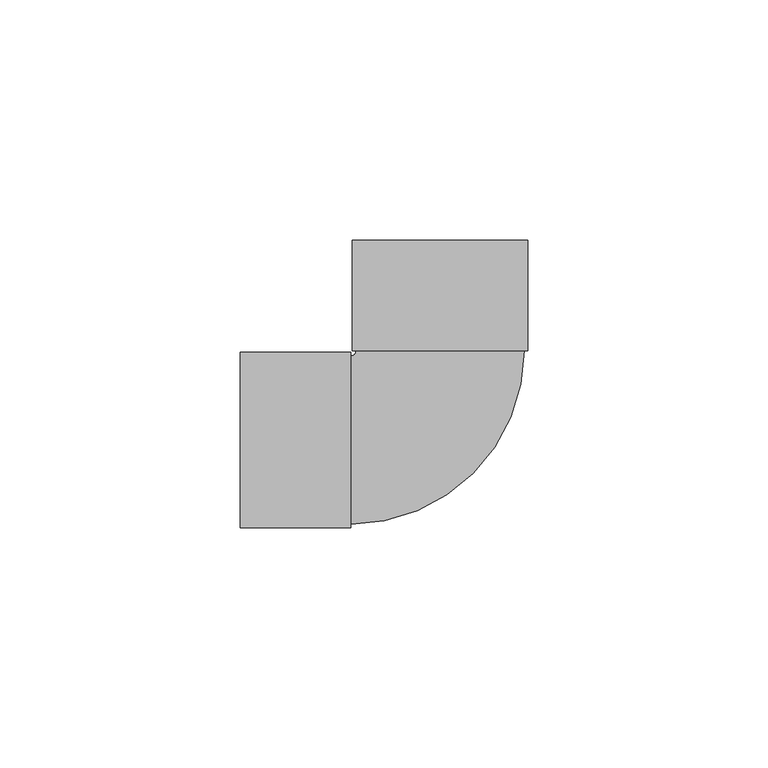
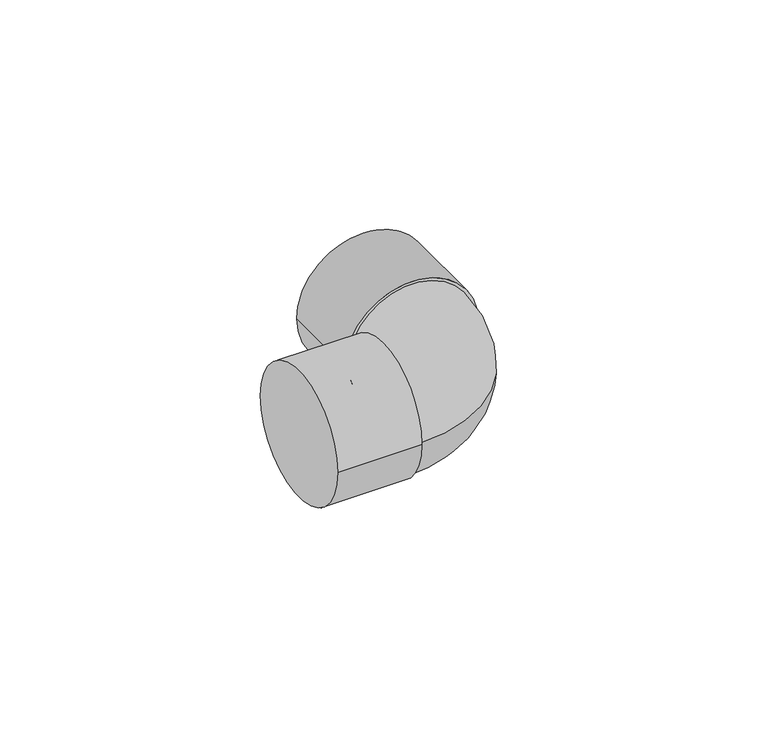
"""IFC4 building model written with IfcOpenShell, lengths in millimetres: pipe fitting geometry, Cotovelo - Soldado - CU : Padrão."""

from ifc_helpers import new_model, si_unit, point, frame, origin, place, context, project, spatial, circle_curve, ellipse_curve, trimmed, source, transform, mapped, element, save
from ifc_brep_helpers import plane_surface, cylinder_surface, revolved_surface, advanced_brep


def pipe_fitting_1c810b01(model_context):
    return source(origin(), model_context, "Body", "AdvancedBrep", [
        advanced_brep(
        [(-17.5003299, 18.5996896, 0.0), (-18.6, 17.5, 0.0), (-18.6, -17.5, 0.0), (17.4996701, 18.6003104, 0.0), (-41.6, -18.28, 0.0), (-41.6, 18.28, 0.0), (-18.6, -18.28, 0.0), (-18.6, 18.28, 0.0), (-18.2807379, 41.5996757, 0.0), (18.2792621, 41.6003242, 0.0), (-18.2803299, 18.5996757, 0.0), (18.2796701, 18.6003243, 0.0)],
        [
            (0, 1, circle_curve(frame((-18.6, 18.5996701, 0.0), z_axis=(0.0, 0.0, -1.0), x_axis=(0.0, -1.0, 0.0)), 1.0996701)),
            (1, 2, circle_curve(frame((-18.6, 0.0, 0.0), z_axis=(1.0, 0.0, 0.0), x_axis=(0.0, 1.0, 0.0)), 17.5)),
            (2, 3, circle_curve(frame((-18.6, 18.5996701, 0.0), z_axis=(0.0, 0.0, 1.0), x_axis=(0.0, -1.0, 0.0)), 36.0996701)),
            (3, 0, circle_curve(frame((-0.0003299, 18.6, 0.0), z_axis=(1.7738146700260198e-05, -0.9999999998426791, 0.0), x_axis=(-0.9999999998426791, -1.7738146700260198e-05, 0.0)), 17.5)),
            (0, 3, circle_curve(frame((-0.0003299, 18.6, 0.0), z_axis=(1.7738146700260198e-05, -0.9999999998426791, 0.0), x_axis=(-0.9999999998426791, -1.7738146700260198e-05, 0.0)), 17.5)),
            (2, 1, circle_curve(frame((-18.6, 0.0, 0.0), z_axis=(1.0, 0.0, 0.0), x_axis=(0.0, 1.0, 0.0)), 17.5)),
            (4, 5, circle_curve(frame((-41.6, 0.0, 0.0), z_axis=(-1.0, 0.0, 0.0), x_axis=(0.0, 1.0, 0.0)), 18.28)),
            (5, 4, circle_curve(frame((-41.6, 0.0, 0.0), z_axis=(-1.0, 0.0, 0.0), x_axis=(0.0, 1.0, 0.0)), 18.28)),
            (6, 7, circle_curve(frame((-18.6, 0.0, 0.0), z_axis=(1.0, 0.0, 0.0), x_axis=(0.0, 1.0, 0.0)), 18.28)),
            (7, 6, circle_curve(frame((-18.6, 0.0, 0.0), z_axis=(1.0, 0.0, 0.0), x_axis=(0.0, 1.0, 0.0)), 18.28)),
            (4, 6),
            (7, 5),
            (8, 9, circle_curve(frame((-0.0007379, 41.6, 0.0), z_axis=(-1.773814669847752e-05, 0.9999999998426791, 0.0), x_axis=(0.9999999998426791, 1.773814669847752e-05, 0.0)), 18.28)),
            (9, 8, circle_curve(frame((-0.0007379, 41.6, 0.0), z_axis=(-1.773814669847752e-05, 0.9999999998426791, 0.0), x_axis=(0.9999999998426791, 1.773814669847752e-05, 0.0)), 18.28)),
            (10, 11, circle_curve(frame((-0.0003299, 18.6, 0.0), z_axis=(1.773814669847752e-05, -0.9999999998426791, 0.0), x_axis=(0.9999999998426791, 1.773814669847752e-05, 0.0)), 18.28)),
            (11, 10, circle_curve(frame((-0.0003299, 18.6, 0.0), z_axis=(1.773814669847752e-05, -0.9999999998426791, 0.0), x_axis=(0.9999999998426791, 1.773814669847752e-05, 0.0)), 18.28)),
            (8, 10),
            (11, 9),
        ],
        [
            revolved_surface(trimmed(ellipse_curve(frame((-18.6, 0.0, 0.0), z_axis=(-1.0, 0.0, 0.0), x_axis=(0.0, 1.0, 0.0)), 17.5, 17.5), [point((-18.6, -17.5, 0.0))], [point((-18.6, 17.5, 0.0))], True, "CARTESIAN"), (-18.6, 18.5996701, 0.0), (0.0, 0.0, 1.0)),
            revolved_surface(trimmed(ellipse_curve(frame((-18.6, 0.0, 0.0), z_axis=(-1.0, 0.0, 0.0), x_axis=(0.0, 1.0, 0.0)), 17.5, 17.5), [point((-18.6, 17.5, 0.0))], [point((-18.6, -17.5, 0.0))], True, "CARTESIAN"), (-18.6, 18.5996701, 0.0), (0.0, 0.0, 1.0)),
            plane_surface(frame((-41.6, 0.0, 0.0), z_axis=(-1.0, 0.0, 0.0), x_axis=(0.0, 0.0, 1.0))),
            plane_surface(frame((-18.6, 0.0, 0.0), z_axis=(1.0, 0.0, 0.0), x_axis=(0.0, 0.0, 1.0))),
            cylinder_surface(frame((-41.6, 0.0, 0.0), z_axis=(-1.0, 0.0, 0.0), x_axis=(0.0, 1.0, 0.0)), 18.28),
            plane_surface(frame((-0.0007379, 41.6, 0.0), z_axis=(-1.773814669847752e-05, 0.9999999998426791, 0.0), x_axis=(0.0, 0.0, 1.0))),
            plane_surface(frame((-0.0003299, 18.6, 0.0), z_axis=(1.773814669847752e-05, -0.9999999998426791, 0.0), x_axis=(0.0, 0.0, 1.0))),
            cylinder_surface(frame((-0.0007379, 41.6, 0.0), z_axis=(-1.773814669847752e-05, 0.9999999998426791, 0.0), x_axis=(0.9999999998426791, 1.773814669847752e-05, 0.0)), 18.28),
        ],
        [
            (0, [[1, 2, 3, 4]]),
            (1, [[-1, 5, -3, 6]]),
            (2, [[7, 8]]),
            (3, [[9, 10], [-2, -6]]),
            (4, [[-7, 11, -10, 12]]),
            (4, [[-8, -12, -9, -11]]),
            (5, [[13, 14]]),
            (6, [[15, 16], [-4, -5]]),
            (7, [[-13, 17, -16, 18]]),
            (7, [[-14, -18, -15, -17]]),
        ],
    ),
    ])


if __name__ == "__main__":
    model = new_model("IFC4")
    model_context = context("Model", 3, world=origin())
    ifc_project = project(units=[si_unit("LENGTHUNIT", "METRE", prefix="MILLI")], contexts=[model_context])
    site = spatial("IfcSite", under=ifc_project)
    building = spatial("IfcBuilding", under=site)
    placement = place(None, origin())
    pipe_fitting_shape = pipe_fitting_1c810b01(model_context)
    element("IfcPipeFitting", 1, ObjectType="Cotovelo - Soldado - CU : Padrão", at=placement, inside=building, context=model_context, shape_type="MappedRepresentation", body=[
        mapped(pipe_fitting_shape, transform((0.0, 0.0, 0.0), x_axis=(1.0, 0.0, 0.0), y_axis=(0.0, 1.0, 0.0), z_axis=(0.0, 0.0, 1.0))),
    ])
    save(model, "model.ifc")
